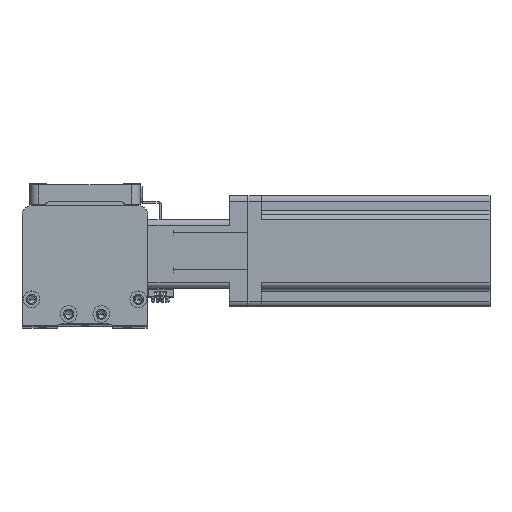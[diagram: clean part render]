
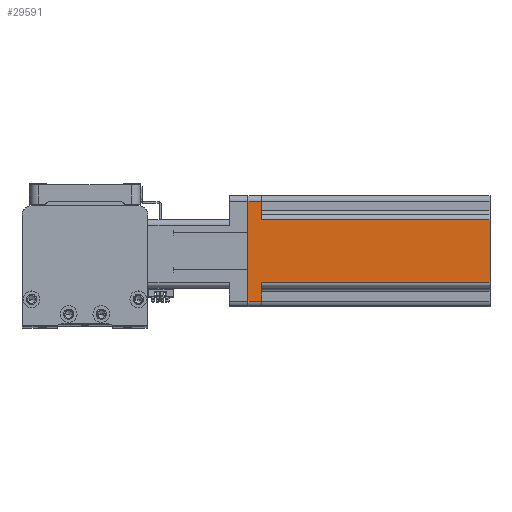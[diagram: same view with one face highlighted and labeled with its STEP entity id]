
A CAD part, top view. The second image highlights one B-rep face of the part: STEP entity #29591.
In plain terms, the highlighted planar face has unit normal (0, 0, 1) as drawn and (1, 0, 0) by its records, which use the part's own axes.
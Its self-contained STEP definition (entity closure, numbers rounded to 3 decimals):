
#412 = DIRECTION ( 'NONE',  ( 0., -1., 0. ) ) ;
#590 = VECTOR ( 'NONE', #26174, 1000. ) ;
#1439 = EDGE_CURVE ( 'NONE', #29358, #38449, #3606, .T. ) ;
#2097 = CARTESIAN_POINT ( 'NONE',  ( 30., 27., 0. ) ) ;
#3034 = CARTESIAN_POINT ( 'NONE',  ( 30., 17., 7.5 ) ) ;
#3306 = ORIENTED_EDGE ( 'NONE', *, *, #9259, .T. ) ;
#3606 = LINE ( 'NONE', #33468, #36469 ) ;
#4236 = ORIENTED_EDGE ( 'NONE', *, *, #28517, .F. ) ;
#4909 = CARTESIAN_POINT ( 'NONE',  ( 30., -30., 0. ) ) ;
#5727 = FACE_OUTER_BOUND ( 'NONE', #13194, .T. ) ;
#6144 = CARTESIAN_POINT ( 'NONE',  ( 30., 30., 7.5 ) ) ;
#6869 = LINE ( 'NONE', #27436, #31021 ) ;
#7052 = LINE ( 'NONE', #4909, #39915 ) ;
#8102 = EDGE_CURVE ( 'NONE', #26961, #33141, #32550, .T. ) ;
#8676 = VERTEX_POINT ( 'NONE', #39562 ) ;
#9259 = EDGE_CURVE ( 'NONE', #18097, #11555, #36521, .T. ) ;
#10591 = ORIENTED_EDGE ( 'NONE', *, *, #1439, .T. ) ;
#11327 = CARTESIAN_POINT ( 'NONE',  ( 30., -30., 130.7 ) ) ;
#11555 = VERTEX_POINT ( 'NONE', #25603 ) ;
#12878 = CARTESIAN_POINT ( 'NONE',  ( 30., 17., 130.7 ) ) ;
#13194 = EDGE_LOOP ( 'NONE', ( #4236, #18906, #31003, #18466, #36215, #3306, #14967, #10591 ) ) ;
#14602 = DIRECTION ( 'NONE',  ( 0., 0., 1. ) ) ;
#14967 = ORIENTED_EDGE ( 'NONE', *, *, #36577, .F. ) ;
#16096 = VECTOR ( 'NONE', #26871, 1000. ) ;
#17106 = LINE ( 'NONE', #39734, #42256 ) ;
#17485 = CARTESIAN_POINT ( 'NONE',  ( 30., -27., 130.7 ) ) ;
#17492 = DIRECTION ( 'NONE',  ( 0., 1., 0. ) ) ;
#18097 = VERTEX_POINT ( 'NONE', #2097 ) ;
#18466 = ORIENTED_EDGE ( 'NONE', *, *, #26860, .T. ) ;
#18906 = ORIENTED_EDGE ( 'NONE', *, *, #8102, .T. ) ;
#20832 = DIRECTION ( 'NONE',  ( 0., 0., -1. ) ) ;
#22517 = LINE ( 'NONE', #17485, #31254 ) ;
#22681 = DIRECTION ( 'NONE',  ( 0., 1., 0. ) ) ;
#22888 = CARTESIAN_POINT ( 'NONE',  ( 30., 27., 130.7 ) ) ;
#23534 = CARTESIAN_POINT ( 'NONE',  ( 30., -17., 7.5 ) ) ;
#23560 = CARTESIAN_POINT ( 'NONE',  ( 30., -17., 7.5 ) ) ;
#23710 = AXIS2_PLACEMENT_3D ( 'NONE', #11327, #34298, #14602 ) ;
#24470 = CARTESIAN_POINT ( 'NONE',  ( 30., -27., 7.5 ) ) ;
#25603 = CARTESIAN_POINT ( 'NONE',  ( 30., 27., 7.5 ) ) ;
#26174 = DIRECTION ( 'NONE',  ( 0., 0., 1. ) ) ;
#26860 = EDGE_CURVE ( 'NONE', #28038, #8676, #22517, .T. ) ;
#26871 = DIRECTION ( 'NONE',  ( 0., 0., -1. ) ) ;
#26961 = VERTEX_POINT ( 'NONE', #40864 ) ;
#27436 = CARTESIAN_POINT ( 'NONE',  ( 30., -30., 130.7 ) ) ;
#28038 = VERTEX_POINT ( 'NONE', #24470 ) ;
#28517 = EDGE_CURVE ( 'NONE', #26961, #38449, #6869, .T. ) ;
#29358 = VERTEX_POINT ( 'NONE', #3034 ) ;
#29591 = ADVANCED_FACE ( 'NONE', ( #5727 ), #40755, .F. ) ;
#30157 = DIRECTION ( 'NONE',  ( 0., 0., 1. ) ) ;
#31003 = ORIENTED_EDGE ( 'NONE', *, *, #39785, .T. ) ;
#31021 = VECTOR ( 'NONE', #17492, 1000. ) ;
#31254 = VECTOR ( 'NONE', #20832, 1000. ) ;
#32550 = LINE ( 'NONE', #23560, #16096 ) ;
#33141 = VERTEX_POINT ( 'NONE', #23534 ) ;
#33191 = VECTOR ( 'NONE', #22681, 1000. ) ;
#33468 = CARTESIAN_POINT ( 'NONE',  ( 30., 17., 130.7 ) ) ;
#34298 = DIRECTION ( 'NONE',  ( -1., 0., 0. ) ) ;
#36215 = ORIENTED_EDGE ( 'NONE', *, *, #38204, .T. ) ;
#36469 = VECTOR ( 'NONE', #30157, 1000. ) ;
#36521 = LINE ( 'NONE', #22888, #590 ) ;
#36577 = EDGE_CURVE ( 'NONE', #29358, #11555, #41918, .T. ) ;
#37627 = DIRECTION ( 'NONE',  ( 0., 1., 0. ) ) ;
#38204 = EDGE_CURVE ( 'NONE', #8676, #18097, #7052, .T. ) ;
#38449 = VERTEX_POINT ( 'NONE', #12878 ) ;
#39562 = CARTESIAN_POINT ( 'NONE',  ( 30., -27., 0. ) ) ;
#39734 = CARTESIAN_POINT ( 'NONE',  ( 30., -30., 7.5 ) ) ;
#39785 = EDGE_CURVE ( 'NONE', #33141, #28038, #17106, .T. ) ;
#39915 = VECTOR ( 'NONE', #37627, 1000. ) ;
#40755 = PLANE ( 'NONE',  #23710 ) ;
#40864 = CARTESIAN_POINT ( 'NONE',  ( 30., -17., 130.7 ) ) ;
#41918 = LINE ( 'NONE', #6144, #33191 ) ;
#42256 = VECTOR ( 'NONE', #412, 1000. ) ;
